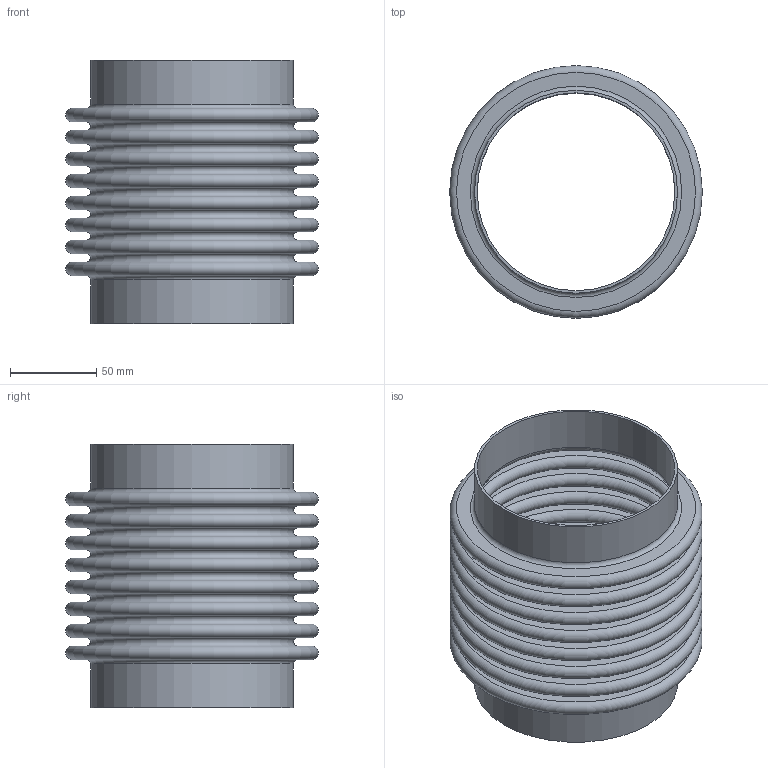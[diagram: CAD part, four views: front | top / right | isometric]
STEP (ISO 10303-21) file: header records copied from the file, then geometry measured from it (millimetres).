
FILE_DESCRIPTION(/* description */ ('STOCK BELLOWS: U.S-4-8-300S, 4.500 I.D., 5.750 O.D., 2 PLY, 22 GA (0.030 THICK), 8 CONS., 0.500 PITCH, 1.000 TANGENT. '),/* implementation_level */ '2;1');
FILE_NAME(/* name */ 'STOCK BELLOW - US-4-8-300S.stp',/* time_stamp */ '2026-07-21T13:25:49-05:00',/* author */ ('KennethB'),/* organization */ (''),/* preprocessor_version */ 'ST-DEVELOPER v20.1',/* originating_system */ 'Autodesk Inventor 2026',/* authorisation */ '');
FILE_SCHEMA (('AUTOMOTIVE_DESIGN { 1 0 10303 214 3 1 1 }'));
Length unit declared in the file: inch
Products named in the file (1): STOCK BELLOW - US-4-8-300S
Bounding box: 146.05 x 146.05 x 152.4 mm (x, y, z)
Volume: 207423 mm3; surface area: 275535.9 mm2
Topology: 3 solids, 3 shells, 76 faces, 114 edges, 77 vertices
Faces by surface type: plane 38, torus 34, cylinder 4
Full cylindrical faces by diameter (mm): 114.3 x2, 117.348 x2
Entity records: 1814 total; most frequent: DIRECTION 378, CARTESIAN_POINT 268, ORIENTED_EDGE 228, AXIS2_PLACEMENT_3D 187, EDGE_LOOP 114, EDGE_CURVE 114, CIRCLE 110, FACE_OUTER_BOUND 76
